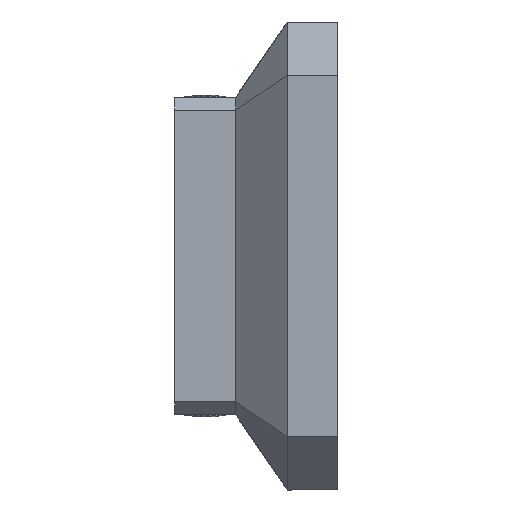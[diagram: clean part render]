
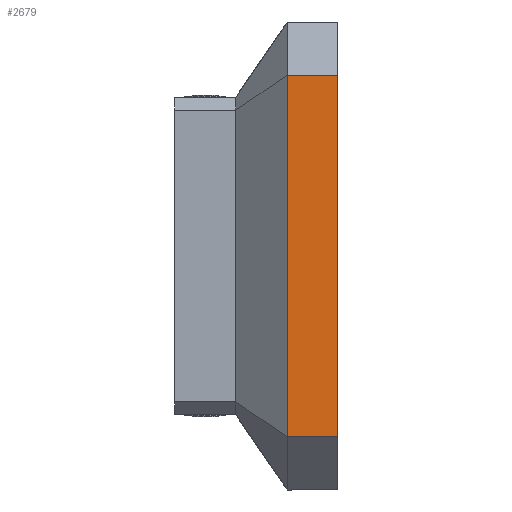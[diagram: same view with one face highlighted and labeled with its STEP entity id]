
A CAD part, left-side view. The second image highlights one B-rep face of the part: STEP entity #2679.
In plain terms, the highlighted planar face has unit normal (-1, 0, 0).
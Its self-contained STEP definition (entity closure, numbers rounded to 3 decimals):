
#17 = DIRECTION ( 'NONE',  ( 0., 1., 0. ) ) ;
#1075 = ORIENTED_EDGE ( 'NONE', *, *, #7807, .F. ) ;
#2309 = ORIENTED_EDGE ( 'NONE', *, *, #17203, .F. ) ;
#2679 = ADVANCED_FACE ( 'NONE', ( #4152 ), #16123, .F. ) ;
#3411 = VECTOR ( 'NONE', #15431, 1000. ) ;
#4152 = FACE_OUTER_BOUND ( 'NONE', #15039, .T. ) ;
#4278 = EDGE_CURVE ( 'NONE', #8495, #4301, #17247, .T. ) ;
#4301 = VERTEX_POINT ( 'NONE', #15620 ) ;
#4645 = CARTESIAN_POINT ( 'NONE',  ( -190.5, 24.6, -115. ) ) ;
#6138 = DIRECTION ( 'NONE',  ( 0., 1., 0. ) ) ;
#7606 = LINE ( 'NONE', #4645, #3411 ) ;
#7807 = EDGE_CURVE ( 'NONE', #13911, #14989, #20111, .T. ) ;
#8378 = ORIENTED_EDGE ( 'NONE', *, *, #13299, .F. ) ;
#8495 = VERTEX_POINT ( 'NONE', #18820 ) ;
#8577 = CARTESIAN_POINT ( 'NONE',  ( -190.5, 24.6, -88.9 ) ) ;
#9352 = AXIS2_PLACEMENT_3D ( 'NONE', #17889, #9843, #14508 ) ;
#9843 = DIRECTION ( 'NONE',  ( 1., 0., 0. ) ) ;
#10813 = DIRECTION ( 'NONE',  ( 0., 0., -1. ) ) ;
#11366 = ORIENTED_EDGE ( 'NONE', *, *, #4278, .T. ) ;
#11820 = VECTOR ( 'NONE', #17, 1000. ) ;
#13098 = CARTESIAN_POINT ( 'NONE',  ( -190.5, 0., -88.9 ) ) ;
#13178 = VECTOR ( 'NONE', #10813, 1000. ) ;
#13299 = EDGE_CURVE ( 'NONE', #14989, #4301, #7606, .T. ) ;
#13911 = VERTEX_POINT ( 'NONE', #13098 ) ;
#14508 = DIRECTION ( 'NONE',  ( 0., 0., -1. ) ) ;
#14989 = VERTEX_POINT ( 'NONE', #8577 ) ;
#15039 = EDGE_LOOP ( 'NONE', ( #11366, #8378, #1075, #2309 ) ) ;
#15419 = CARTESIAN_POINT ( 'NONE',  ( -190.5, 0., 88.9 ) ) ;
#15431 = DIRECTION ( 'NONE',  ( 0., 0., 1. ) ) ;
#15620 = CARTESIAN_POINT ( 'NONE',  ( -190.5, 24.6, 88.9 ) ) ;
#16123 = PLANE ( 'NONE',  #9352 ) ;
#16264 = VECTOR ( 'NONE', #6138, 1000. ) ;
#17095 = CARTESIAN_POINT ( 'NONE',  ( -190.5, 0., -88.9 ) ) ;
#17203 = EDGE_CURVE ( 'NONE', #8495, #13911, #17305, .T. ) ;
#17247 = LINE ( 'NONE', #15419, #16264 ) ;
#17305 = LINE ( 'NONE', #17095, #13178 ) ;
#17889 = CARTESIAN_POINT ( 'NONE',  ( -190.5, 0., -88.9 ) ) ;
#18670 = CARTESIAN_POINT ( 'NONE',  ( -190.5, 0., -88.9 ) ) ;
#18820 = CARTESIAN_POINT ( 'NONE',  ( -190.5, 0., 88.9 ) ) ;
#20111 = LINE ( 'NONE', #18670, #11820 ) ;
